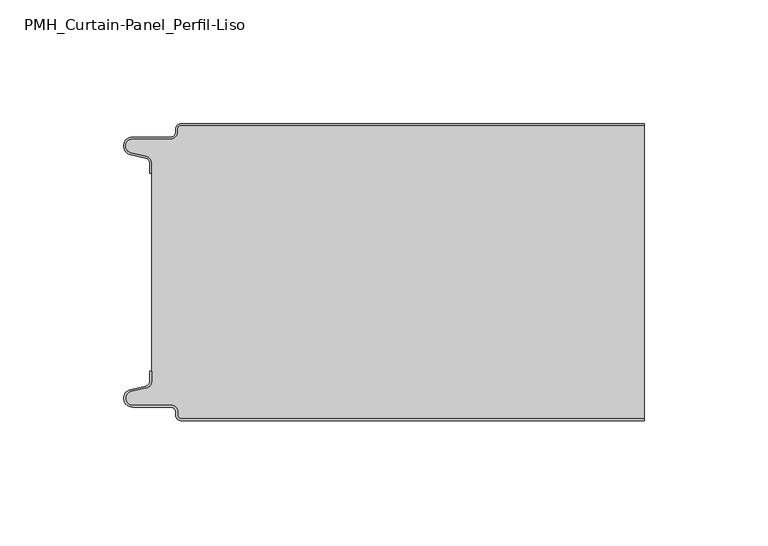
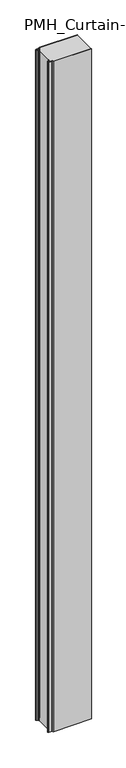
"""IFC4 building model written with IfcOpenShell, lengths in millimetres: plate geometry, PMH_Curtain-Panel_Perfil-Liso : ACH_PMH_Panel-Acústico-Sectorización_120M."""

from ifc_helpers import new_model, si_unit, point, frame_2d, origin, origin_with_axes, place, context, project, spatial, polyline, circle_curve, trimmed, segment, composite_curve, outline, extrude, source, transform, mapped, element, save


def pmh_curtain_panel_perfil_liso_4aeccdc1(model_context):
    return source(origin(), model_context, "Body", "SweptSolid", [
        extrude(outline(composite_curve([segment(polyline([(-87.4, 0.8), (100.0, 0.8), (100.0, 0.0), (-87.4, 0.0)]), True, "CONTINUOUS"), segment(trimmed(circle_curve(frame_2d((-87.4, 2.0)), 2.0), [point((-87.4, 0.0))], [point((-89.4, 2.0))], False, "CARTESIAN"), True, "CONTINUOUS"), segment(polyline([(-89.4, 2.0), (-89.4, 3.4)]), True, "CONTINUOUS"), segment(trimmed(circle_curve(frame_2d((-91.4, 3.4)), 2.0), [point((-89.4, 3.4))], [point((-91.4, 5.4))], True, "CARTESIAN"), True, "CONTINUOUS"), segment(polyline([(-91.4, 5.4), (-106.9, 5.4)]), True, "CONTINUOUS"), segment(trimmed(circle_curve(frame_2d((-106.9, 9.0)), 3.6), [point((-106.9, 5.4))], [point((-107.7098239, 12.5077322))], False, "CARTESIAN"), True, "CONTINUOUS"), segment(polyline([(-107.7098239, 12.5077322), (-101.5500979, 13.929817)]), True, "CONTINUOUS"), segment(trimmed(circle_curve(frame_2d((-102.0, 15.878557)), 2.0), [point((-101.5500979, 13.929817))], [point((-100.0, 15.878557))], True, "CARTESIAN"), True, "CONTINUOUS"), segment(polyline([(-100.0, 15.878557), (-100.0, 20.0), (-99.2, 20.0), (-99.2, 15.878557)]), True, "CONTINUOUS"), segment(trimmed(circle_curve(frame_2d((-102.0, 15.878557)), 2.8), [point((-99.2, 15.878557))], [point((-101.370137, 13.1503208))], False, "CARTESIAN"), True, "CONTINUOUS"), segment(polyline([(-101.370137, 13.1503208), (-107.529863, 11.728236)]), True, "CONTINUOUS"), segment(trimmed(circle_curve(frame_2d((-106.9, 9.0)), 2.8), [point((-107.529863, 11.728236))], [point((-106.9, 6.2))], True, "CARTESIAN"), True, "CONTINUOUS"), segment(polyline([(-106.9, 6.2), (-91.4, 6.2)]), True, "CONTINUOUS"), segment(trimmed(circle_curve(frame_2d((-91.4, 3.4)), 2.8), [point((-91.4, 6.2))], [point((-88.6, 3.4))], False, "CARTESIAN"), True, "CONTINUOUS"), segment(polyline([(-88.6, 3.4), (-88.6, 2.0)]), True, "CONTINUOUS"), segment(trimmed(circle_curve(frame_2d((-87.4, 2.0)), 1.2), [point((-88.6, 2.0))], [point((-87.4, 0.8))], True, "CARTESIAN"), True, "CONTINUOUS")], self_intersect=False)), origin_with_axes(), (0.0, 0.0, 1.0), 3500.0),
        extrude(outline(composite_curve([segment(trimmed(circle_curve(frame_2d((-102.0, 104.1214426)), 2.8), [point((-99.2, 104.1214426))], [point((-101.370137, 106.8496788))], True, "CARTESIAN"), True, "CONTINUOUS"), segment(polyline([(-101.370137, 106.8496788), (-107.5298631, 108.2717638)]), True, "CONTINUOUS"), segment(trimmed(circle_curve(frame_2d((-106.9, 111.0)), 2.8), [point((-107.5298631, 108.2717638))], [point((-106.9, 113.8))], False, "CARTESIAN"), True, "CONTINUOUS"), segment(polyline([(-106.9, 113.8), (-91.4000001, 113.8)]), True, "CONTINUOUS"), segment(trimmed(circle_curve(frame_2d((-91.4000001, 116.6)), 2.8), [point((-91.4000001, 113.8))], [point((-88.6000001, 116.6))], True, "CARTESIAN"), True, "CONTINUOUS"), segment(polyline([(-88.6000001, 116.6), (-88.6000001, 118.0)]), True, "CONTINUOUS"), segment(trimmed(circle_curve(frame_2d((-87.4000001, 118.0)), 1.2), [point((-88.6000001, 118.0))], [point((-87.4000001, 119.2))], False, "CARTESIAN"), True, "CONTINUOUS"), segment(polyline([(-87.4000001, 119.2), (100.0, 119.2), (100.0, 0.8), (-87.4000001, 0.8)]), True, "CONTINUOUS"), segment(trimmed(circle_curve(frame_2d((-87.4000001, 2.0)), 1.2), [point((-87.4000001, 0.8))], [point((-88.6000001, 2.0))], False, "CARTESIAN"), True, "CONTINUOUS"), segment(polyline([(-88.6000001, 2.0), (-88.6000001, 3.4)]), True, "CONTINUOUS"), segment(trimmed(circle_curve(frame_2d((-91.4000001, 3.4)), 2.8), [point((-88.6000001, 3.4))], [point((-91.4000001, 6.2))], True, "CARTESIAN"), True, "CONTINUOUS"), segment(polyline([(-91.4000001, 6.2), (-106.9, 6.2)]), True, "CONTINUOUS"), segment(trimmed(circle_curve(frame_2d((-106.9, 9.0)), 2.8), [point((-106.9, 6.2))], [point((-107.5298631, 11.7282362))], False, "CARTESIAN"), True, "CONTINUOUS"), segment(polyline([(-107.5298631, 11.7282362), (-101.370137, 13.1503212)]), True, "CONTINUOUS"), segment(trimmed(circle_curve(frame_2d((-102.0, 15.8785573)), 2.8), [point((-101.370137, 13.1503212))], [point((-99.2, 15.8785573))], True, "CARTESIAN"), True, "CONTINUOUS"), segment(polyline([(-99.2, 15.8785573), (-99.2, 104.1214426)]), True, "CONTINUOUS")], self_intersect=False)), origin_with_axes(), (0.0, 0.0, 1.0), 3500.0),
        extrude(outline(composite_curve([segment(polyline([(-87.4, 120.0), (100.0, 120.0), (100.0, 119.2), (-87.4, 119.2)]), True, "CONTINUOUS"), segment(trimmed(circle_curve(frame_2d((-87.4, 118.0)), 1.2), [point((-87.4, 119.2))], [point((-88.6, 118.0))], True, "CARTESIAN"), True, "CONTINUOUS"), segment(polyline([(-88.6, 118.0), (-88.6, 116.6)]), True, "CONTINUOUS"), segment(trimmed(circle_curve(frame_2d((-91.4, 116.6)), 2.8), [point((-88.6, 116.6))], [point((-91.4, 113.8))], False, "CARTESIAN"), True, "CONTINUOUS"), segment(polyline([(-91.4, 113.8), (-106.9, 113.8)]), True, "CONTINUOUS"), segment(trimmed(circle_curve(frame_2d((-106.9, 111.0)), 2.8), [point((-106.9, 113.8))], [point((-107.529863, 108.2717638))], True, "CARTESIAN"), True, "CONTINUOUS"), segment(polyline([(-107.529863, 108.2717638), (-101.370137, 106.849679)]), True, "CONTINUOUS"), segment(trimmed(circle_curve(frame_2d((-102.0, 104.121443)), 2.8), [point((-101.370137, 106.849679))], [point((-99.2, 104.121443))], False, "CARTESIAN"), True, "CONTINUOUS"), segment(polyline([(-99.2, 104.121443), (-99.2, 100.0), (-100.0, 100.0), (-100.0, 104.121443)]), True, "CONTINUOUS"), segment(trimmed(circle_curve(frame_2d((-102.0, 104.121443)), 2.0), [point((-100.0, 104.121443))], [point((-101.5500978, 106.0701831))], True, "CARTESIAN"), True, "CONTINUOUS"), segment(polyline([(-101.5500978, 106.0701831), (-107.7098239, 107.492268)]), True, "CONTINUOUS"), segment(trimmed(circle_curve(frame_2d((-106.9, 111.0)), 3.6), [point((-107.7098239, 107.492268))], [point((-106.9, 114.6))], False, "CARTESIAN"), True, "CONTINUOUS"), segment(polyline([(-106.9, 114.6), (-91.4, 114.6)]), True, "CONTINUOUS"), segment(trimmed(circle_curve(frame_2d((-91.4, 116.6)), 2.0), [point((-91.4, 114.6))], [point((-89.4, 116.6))], True, "CARTESIAN"), True, "CONTINUOUS"), segment(polyline([(-89.4, 116.6), (-89.4, 118.0)]), True, "CONTINUOUS"), segment(trimmed(circle_curve(frame_2d((-87.4, 118.0)), 2.0), [point((-89.4, 118.0))], [point((-87.4, 120.0))], False, "CARTESIAN"), True, "CONTINUOUS")], self_intersect=False)), origin_with_axes(), (0.0, 0.0, 1.0), 3500.0),
    ])


if __name__ == "__main__":
    model = new_model("IFC4")
    model_context = context("Model", 3, world=origin())
    ifc_project = project(units=[si_unit("LENGTHUNIT", "METRE", prefix="MILLI")], contexts=[model_context])
    site = spatial("IfcSite", under=ifc_project)
    building = spatial("IfcBuilding", under=site)
    placement = place(None, origin())
    pmh_curtain_panel_perfil_liso_shape = pmh_curtain_panel_perfil_liso_4aeccdc1(model_context)
    element("IfcPlate", 1, ObjectType="PMH_Curtain-Panel_Perfil-Liso : ACH_PMH_Panel-Acústico-Sectorización_120M", at=placement, inside=building, context=model_context, shape_type="MappedRepresentation", body=[
        mapped(pmh_curtain_panel_perfil_liso_shape, transform((0.0, 0.0, 0.0), x_axis=(1.0, 0.0, 0.0), y_axis=(0.0, 1.0, 0.0), z_axis=(0.0, 0.0, 1.0))),
    ])
    save(model, "model.ifc")
